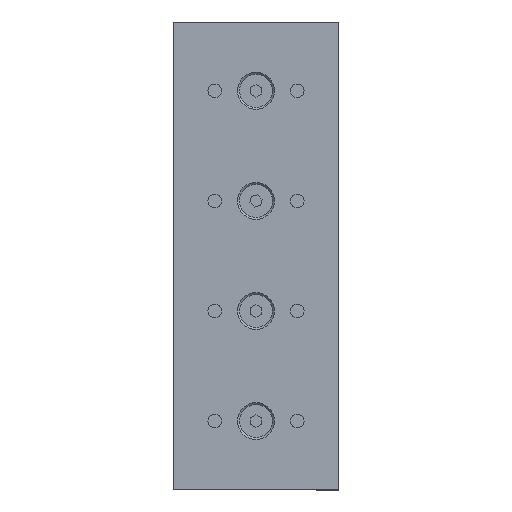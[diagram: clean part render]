
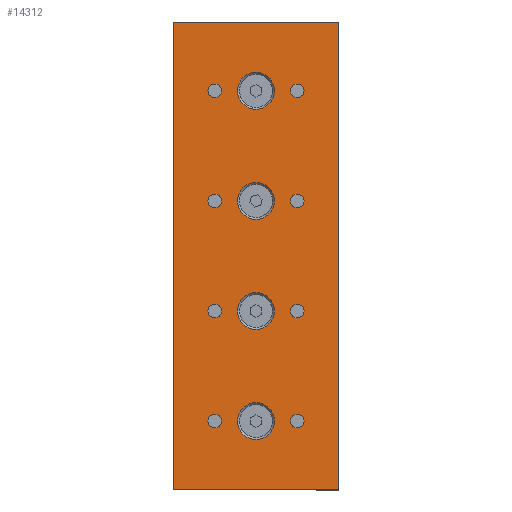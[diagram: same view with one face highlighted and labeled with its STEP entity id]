
A CAD part, top view. The second image highlights one B-rep face of the part: STEP entity #14312.
In plain terms, the highlighted planar face has unit normal (0, 0, 1) as drawn and (0, 1, 0) by its records, which use the part's own axes.
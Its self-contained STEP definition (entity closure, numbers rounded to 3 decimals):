
#317=FACE_BOUND('',#1677,.T.);
#318=FACE_BOUND('',#1678,.T.);
#319=FACE_BOUND('',#1679,.T.);
#320=FACE_BOUND('',#1680,.T.);
#321=FACE_BOUND('',#1681,.T.);
#322=FACE_BOUND('',#1682,.T.);
#323=FACE_BOUND('',#1683,.T.);
#324=FACE_BOUND('',#1684,.T.);
#325=FACE_BOUND('',#1685,.T.);
#326=FACE_BOUND('',#1686,.T.);
#327=FACE_BOUND('',#1687,.T.);
#328=FACE_BOUND('',#1688,.T.);
#878=FACE_OUTER_BOUND('',#1676,.T.);
#1676=EDGE_LOOP('',(#10502,#10503,#10504,#10505));
#1677=EDGE_LOOP('',(#10506));
#1678=EDGE_LOOP('',(#10507));
#1679=EDGE_LOOP('',(#10508));
#1680=EDGE_LOOP('',(#10509));
#1681=EDGE_LOOP('',(#10510));
#1682=EDGE_LOOP('',(#10511));
#1683=EDGE_LOOP('',(#10512));
#1684=EDGE_LOOP('',(#10513));
#1685=EDGE_LOOP('',(#10514));
#1686=EDGE_LOOP('',(#10515));
#1687=EDGE_LOOP('',(#10516));
#1688=EDGE_LOOP('',(#10517));
#2660=LINE('',#21540,#4167);
#2673=LINE('',#21565,#4180);
#2674=LINE('',#21568,#4181);
#2675=LINE('',#21569,#4182);
#4167=VECTOR('',#17810,10.);
#4180=VECTOR('',#17827,10.);
#4181=VECTOR('',#17830,10.);
#4182=VECTOR('',#17831,10.);
#5457=CIRCLE('',#15518,1.23);
#5459=CIRCLE('',#15521,1.23);
#5461=CIRCLE('',#15524,1.23);
#5463=CIRCLE('',#15527,1.23);
#5465=CIRCLE('',#15530,1.23);
#5467=CIRCLE('',#15533,1.23);
#5469=CIRCLE('',#15536,1.23);
#5471=CIRCLE('',#15539,1.23);
#5473=CIRCLE('',#15542,3.35);
#5476=CIRCLE('',#15547,3.35);
#5479=CIRCLE('',#15552,3.35);
#5482=CIRCLE('',#15557,3.35);
#6030=VERTEX_POINT('',#21444);
#6032=VERTEX_POINT('',#21450);
#6034=VERTEX_POINT('',#21456);
#6036=VERTEX_POINT('',#21462);
#6038=VERTEX_POINT('',#21468);
#6040=VERTEX_POINT('',#21474);
#6042=VERTEX_POINT('',#21480);
#6044=VERTEX_POINT('',#21486);
#6046=VERTEX_POINT('',#21492);
#6049=VERTEX_POINT('',#21502);
#6052=VERTEX_POINT('',#21512);
#6055=VERTEX_POINT('',#21522);
#6061=VERTEX_POINT('',#21537);
#6062=VERTEX_POINT('',#21539);
#6072=VERTEX_POINT('',#21563);
#6073=VERTEX_POINT('',#21567);
#7620=EDGE_CURVE('',#6030,#6030,#5457,.T.);
#7623=EDGE_CURVE('',#6032,#6032,#5459,.T.);
#7626=EDGE_CURVE('',#6034,#6034,#5461,.T.);
#7629=EDGE_CURVE('',#6036,#6036,#5463,.T.);
#7632=EDGE_CURVE('',#6038,#6038,#5465,.T.);
#7635=EDGE_CURVE('',#6040,#6040,#5467,.T.);
#7638=EDGE_CURVE('',#6042,#6042,#5469,.T.);
#7641=EDGE_CURVE('',#6044,#6044,#5471,.T.);
#7644=EDGE_CURVE('',#6046,#6046,#5473,.T.);
#7649=EDGE_CURVE('',#6049,#6049,#5476,.T.);
#7654=EDGE_CURVE('',#6052,#6052,#5479,.T.);
#7659=EDGE_CURVE('',#6055,#6055,#5482,.T.);
#7667=EDGE_CURVE('',#6061,#6062,#2660,.T.);
#7680=EDGE_CURVE('',#6061,#6072,#2673,.T.);
#7681=EDGE_CURVE('',#6073,#6072,#2674,.T.);
#7682=EDGE_CURVE('',#6062,#6073,#2675,.T.);
#10502=ORIENTED_EDGE('',*,*,#7680,.T.);
#10503=ORIENTED_EDGE('',*,*,#7681,.F.);
#10504=ORIENTED_EDGE('',*,*,#7682,.F.);
#10505=ORIENTED_EDGE('',*,*,#7667,.F.);
#10506=ORIENTED_EDGE('',*,*,#7620,.T.);
#10507=ORIENTED_EDGE('',*,*,#7623,.T.);
#10508=ORIENTED_EDGE('',*,*,#7626,.T.);
#10509=ORIENTED_EDGE('',*,*,#7629,.T.);
#10510=ORIENTED_EDGE('',*,*,#7632,.T.);
#10511=ORIENTED_EDGE('',*,*,#7635,.T.);
#10512=ORIENTED_EDGE('',*,*,#7638,.T.);
#10513=ORIENTED_EDGE('',*,*,#7641,.T.);
#10514=ORIENTED_EDGE('',*,*,#7644,.T.);
#10515=ORIENTED_EDGE('',*,*,#7649,.T.);
#10516=ORIENTED_EDGE('',*,*,#7654,.T.);
#10517=ORIENTED_EDGE('',*,*,#7659,.T.);
#12920=PLANE('',#15564);
#14312=ADVANCED_FACE('',(#878,#317,#318,#319,#320,#321,#322,#323,#324,#325,
#326,#327,#328),#12920,.T.);
#15518=AXIS2_PLACEMENT_3D('',#21445,#17703,#17704);
#15521=AXIS2_PLACEMENT_3D('',#21451,#17710,#17711);
#15524=AXIS2_PLACEMENT_3D('',#21457,#17717,#17718);
#15527=AXIS2_PLACEMENT_3D('',#21463,#17724,#17725);
#15530=AXIS2_PLACEMENT_3D('',#21469,#17731,#17732);
#15533=AXIS2_PLACEMENT_3D('',#21475,#17738,#17739);
#15536=AXIS2_PLACEMENT_3D('',#21481,#17745,#17746);
#15539=AXIS2_PLACEMENT_3D('',#21487,#17752,#17753);
#15542=AXIS2_PLACEMENT_3D('',#21493,#17759,#17760);
#15547=AXIS2_PLACEMENT_3D('',#21503,#17771,#17772);
#15552=AXIS2_PLACEMENT_3D('',#21513,#17783,#17784);
#15557=AXIS2_PLACEMENT_3D('',#21523,#17795,#17796);
#15564=AXIS2_PLACEMENT_3D('',#21566,#17828,#17829);
#17703=DIRECTION('center_axis',(0.,-1.,0.));
#17704=DIRECTION('ref_axis',(1.,0.,0.));
#17710=DIRECTION('center_axis',(0.,-1.,0.));
#17711=DIRECTION('ref_axis',(1.,0.,0.));
#17717=DIRECTION('center_axis',(0.,-1.,0.));
#17718=DIRECTION('ref_axis',(1.,0.,0.));
#17724=DIRECTION('center_axis',(0.,-1.,0.));
#17725=DIRECTION('ref_axis',(1.,0.,0.));
#17731=DIRECTION('center_axis',(0.,-1.,0.));
#17732=DIRECTION('ref_axis',(1.,0.,0.));
#17738=DIRECTION('center_axis',(0.,-1.,0.));
#17739=DIRECTION('ref_axis',(1.,0.,0.));
#17745=DIRECTION('center_axis',(0.,-1.,0.));
#17746=DIRECTION('ref_axis',(1.,0.,0.));
#17752=DIRECTION('center_axis',(0.,-1.,0.));
#17753=DIRECTION('ref_axis',(1.,0.,0.));
#17759=DIRECTION('center_axis',(0.,-1.,0.));
#17760=DIRECTION('ref_axis',(1.,0.,0.));
#17771=DIRECTION('center_axis',(0.,-1.,0.));
#17772=DIRECTION('ref_axis',(1.,0.,0.));
#17783=DIRECTION('center_axis',(0.,-1.,0.));
#17784=DIRECTION('ref_axis',(1.,0.,0.));
#17795=DIRECTION('center_axis',(0.,-1.,0.));
#17796=DIRECTION('ref_axis',(1.,0.,0.));
#17810=DIRECTION('',(1.,0.,0.));
#17827=DIRECTION('',(0.,0.,1.));
#17828=DIRECTION('center_axis',(0.,1.,0.));
#17829=DIRECTION('ref_axis',(-1.,0.,0.));
#17830=DIRECTION('',(-1.,0.,0.));
#17831=DIRECTION('',(0.,0.,1.));
#21444=CARTESIAN_POINT('',(6.271,11.,10.));
#21445=CARTESIAN_POINT('Origin',(7.5,11.,10.));
#21450=CARTESIAN_POINT('',(21.271,11.,-10.));
#21451=CARTESIAN_POINT('Origin',(22.5,11.,-10.));
#21456=CARTESIAN_POINT('',(21.271,11.,-30.));
#21457=CARTESIAN_POINT('Origin',(22.5,11.,-30.));
#21462=CARTESIAN_POINT('',(6.271,11.,30.));
#21463=CARTESIAN_POINT('Origin',(7.5,11.,30.));
#21468=CARTESIAN_POINT('',(6.271,11.,-30.));
#21469=CARTESIAN_POINT('Origin',(7.5,11.,-30.));
#21474=CARTESIAN_POINT('',(21.271,11.,30.));
#21475=CARTESIAN_POINT('Origin',(22.5,11.,30.));
#21480=CARTESIAN_POINT('',(6.271,11.,-10.));
#21481=CARTESIAN_POINT('Origin',(7.5,11.,-10.));
#21486=CARTESIAN_POINT('',(21.271,11.,10.));
#21487=CARTESIAN_POINT('Origin',(22.5,11.,10.));
#21492=CARTESIAN_POINT('',(11.65,11.,-10.));
#21493=CARTESIAN_POINT('Origin',(15.,11.,-10.));
#21502=CARTESIAN_POINT('',(11.65,11.,30.));
#21503=CARTESIAN_POINT('Origin',(15.,11.,30.));
#21512=CARTESIAN_POINT('',(11.65,11.,-30.));
#21513=CARTESIAN_POINT('Origin',(15.,11.,-30.));
#21522=CARTESIAN_POINT('',(11.65,11.,10.));
#21523=CARTESIAN_POINT('Origin',(15.,11.,10.));
#21537=CARTESIAN_POINT('',(0.,11.,-42.5));
#21539=CARTESIAN_POINT('',(30.,11.,-42.5));
#21540=CARTESIAN_POINT('',(30.,11.,-42.5));
#21563=CARTESIAN_POINT('',(0.,11.,42.5));
#21565=CARTESIAN_POINT('',(0.,11.,0.));
#21566=CARTESIAN_POINT('Origin',(30.,11.,0.));
#21567=CARTESIAN_POINT('',(30.,11.,42.5));
#21568=CARTESIAN_POINT('',(30.,11.,42.5));
#21569=CARTESIAN_POINT('',(30.,11.,0.));
